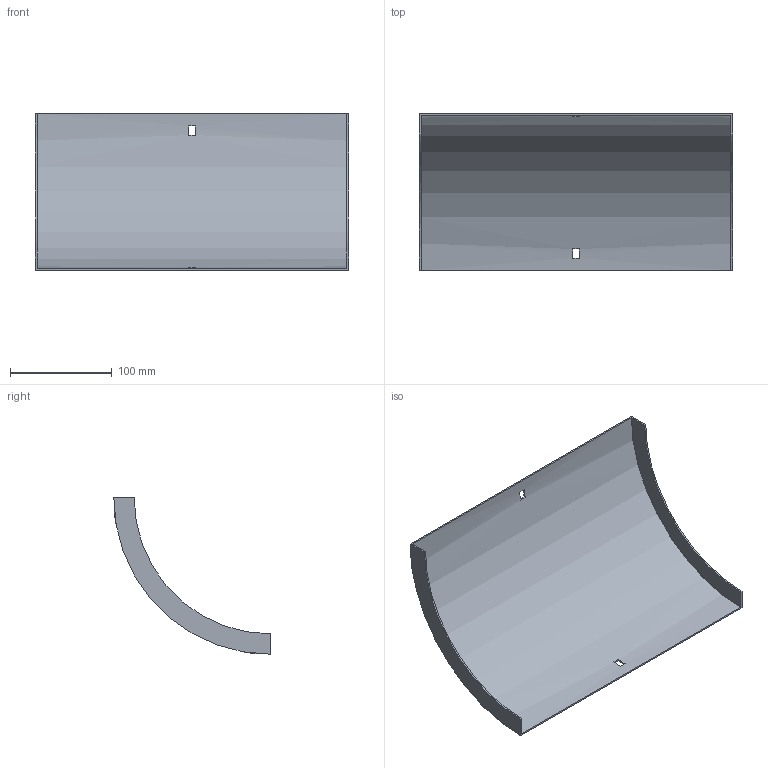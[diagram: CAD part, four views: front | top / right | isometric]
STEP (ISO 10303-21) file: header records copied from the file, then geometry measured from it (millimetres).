
FILE_DESCRIPTION (( 'STEP AP214' ), '1' );
FILE_NAME ('33N1B300.step', '2025-02-21T09:18:06', ( '' ), ( '' ), 'SwSTEP 2.0', 'SolidWorks 2023', '' );
FILE_SCHEMA (( 'AUTOMOTIVE_DESIGN' ));
Length unit declared in the file: millimetre
Products named in the file (1): 33N1B300
Bounding box: 307 x 153.5 x 153.5 mm (x, y, z)
Volume: 122760.2 mm3; surface area: 165438.5 mm2
Topology: 1 solids, 1 shells, 18 faces, 48 edges, 32 vertices
Faces by surface type: plane 14, cylinder 4
Entity records: 599 total; most frequent: DIRECTION 102, CARTESIAN_POINT 99, ORIENTED_EDGE 96, EDGE_CURVE 48, AXIS2_PLACEMENT_3D 35, VERTEX_POINT 32, LINE 32, VECTOR 32
